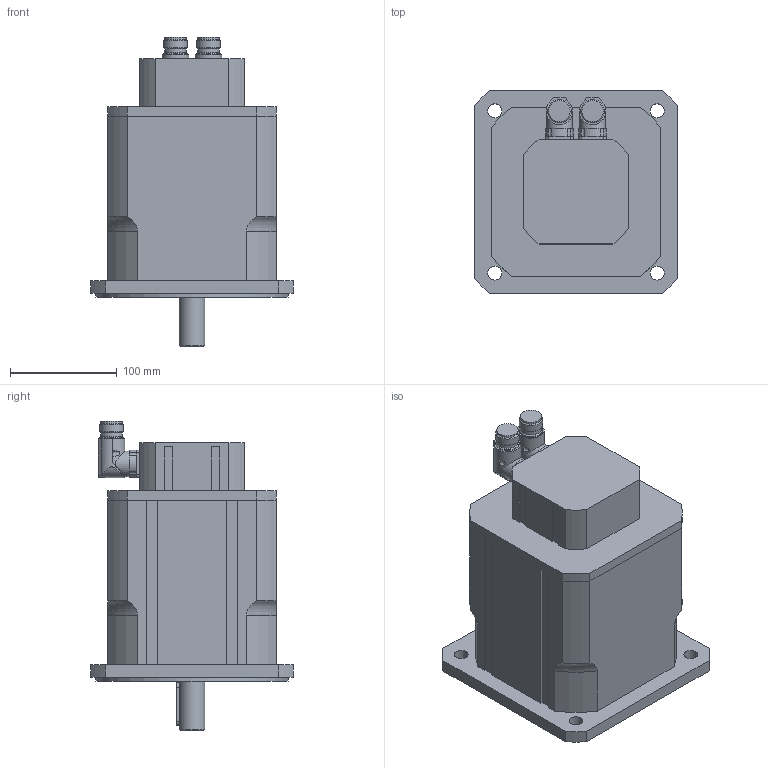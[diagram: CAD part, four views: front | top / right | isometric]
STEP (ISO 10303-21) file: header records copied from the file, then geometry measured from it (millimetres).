
FILE_DESCRIPTION(/* description */ ('Alibre Inc.'),/* implementation_level */ '2;1');
FILE_NAME(/* name */ 'export0',/* time_stamp */ '2011-12-09T12:21:34+01:00',/* author */ (''),/* organization */ (''),/* preprocessor_version */ 'ST-DEVELOPER v12',/* originating_system */ 'Alibre',/* authorisation */ '');
FILE_SCHEMA (('CONFIG_CONTROL_DESIGN'));
Length unit declared in the file: millimetre
Products named in the file (6): ID_1; ID_2
Bounding box: 190 x 190 x 290 mm (x, y, z)
Volume: 4845173.2 mm3; surface area: 291321.6 mm2
Topology: 6 solids, 6 shells, 226 faces, 575 edges, 375 vertices
Faces by surface type: plane 118, cylinder 92, cone 10, torus 4, bspline 2
Full cylindrical faces by diameter (mm): 2.7 x8, 6.647 x1, 13 x4, 20 x8, 22 x4, 24 x3, 25 x1, 180 x1
Entity records: 6168 total; most frequent: CARTESIAN_POINT 1560, ORIENTED_EDGE 798, DIRECTION 780, EDGE_CURVE 399, AXIS2_PLACEMENT_3D 323, VERTEX_POINT 279, VECTOR 227, LINE 227
